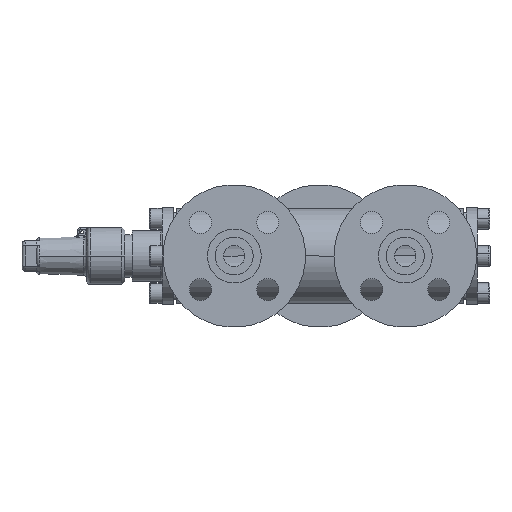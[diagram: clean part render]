
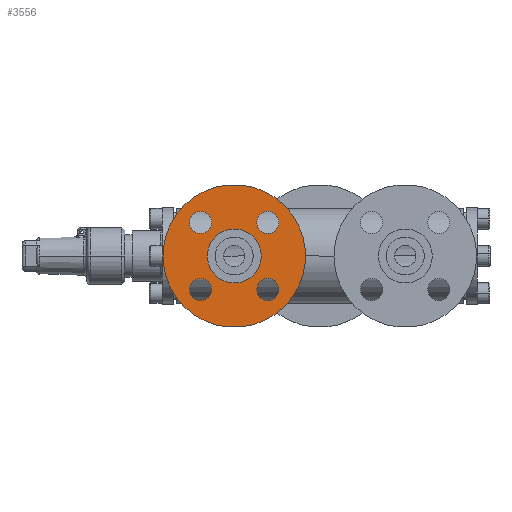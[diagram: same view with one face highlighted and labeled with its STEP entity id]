
A CAD part, left-side view. The second image highlights one B-rep face of the part: STEP entity #3556.
In plain terms, the highlighted planar face has unit normal (-1, 0, 0) as drawn and (0, -1, 0) by its records, which use the part's own axes.
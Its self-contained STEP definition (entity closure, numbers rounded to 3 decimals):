
#709 = EDGE_LOOP ( 'NONE', ( #26789, #25783 ) ) ;
#815 = VERTEX_POINT ( 'NONE', #22628 ) ;
#1172 = ORIENTED_EDGE ( 'NONE', *, *, #18094, .T. ) ;
#1247 = VERTEX_POINT ( 'NONE', #23297 ) ;
#17619 = VERTEX_POINT ( 'NONE', #7187 ) ;
#17856 = VERTEX_POINT ( 'NONE', #7372 ) ;
#1605 = EDGE_CURVE ( 'NONE', #1247, #815, #23592, .T. ) ;
#18094 = EDGE_CURVE ( 'NONE', #17856, #17619, #7718, .T. ) ;
#2172 = ORIENTED_EDGE ( 'NONE', *, *, #23149, .T. ) ;
#18571 = VERTEX_POINT ( 'NONE', #8595 ) ;
#18807 = VERTEX_POINT ( 'NONE', #8914 ) ;
#18827 = EDGE_CURVE ( 'NONE', #5926, #6355, #8956, .T. ) ;
#19044 = EDGE_CURVE ( 'NONE', #18807, #18571, #9210, .T. ) ;
#3170 = EDGE_LOOP ( 'NONE', ( #2172, #1172 ) ) ;
#19801 = CIRCLE ( 'NONE', #19802, 45. ) ;
#19802 = AXIS2_PLACEMENT_3D ( 'NONE', #19803, #19804, #19805 ) ;
#19803 = CARTESIAN_POINT ( 'NONE',  ( 0., 4., 0. ) ) ;
#19804 = DIRECTION ( 'NONE',  ( 0., -1., 0. ) ) ;
#19805 = DIRECTION ( 'NONE',  ( 1., 0., 0. ) ) ;
#3556 = ADVANCED_FACE ( 'NONE', ( #24839, #24840, #24841, #24842, #24843, #24844 ), #24866, .T. ) ;
#20241 = ORIENTED_EDGE ( 'NONE', *, *, #12685, .T. ) ;
#4059 = ORIENTED_EDGE ( 'NONE', *, *, #18827, .T. ) ;
#20649 = CARTESIAN_POINT ( 'NONE',  ( -45., 4., 0. ) ) ;
#20699 = CIRCLE ( 'NONE', #20700, 17. ) ;
#20700 = AXIS2_PLACEMENT_3D ( 'NONE', #20701, #20702, #20703 ) ;
#20701 = CARTESIAN_POINT ( 'NONE',  ( 0., 4., 0. ) ) ;
#20702 = DIRECTION ( 'NONE',  ( 0., -1., 0. ) ) ;
#20703 = DIRECTION ( 'NONE',  ( 1., 0., 0. ) ) ;
#20793 = ORIENTED_EDGE ( 'NONE', *, *, #22187, .T. ) ;
#20814 = CARTESIAN_POINT ( 'NONE',  ( 45., 4., 0. ) ) ;
#21086 = CIRCLE ( 'NONE', #21087, 7. ) ;
#21087 = AXIS2_PLACEMENT_3D ( 'NONE', #21088, #21089, #21090 ) ;
#21088 = CARTESIAN_POINT ( 'NONE',  ( 30., 4., 0. ) ) ;
#21089 = DIRECTION ( 'NONE',  ( 0., 1., 0. ) ) ;
#21090 = DIRECTION ( 'NONE',  ( 1., 0., 0. ) ) ;
#21276 = CIRCLE ( 'NONE', #21277, 45. ) ;
#21277 = AXIS2_PLACEMENT_3D ( 'NONE', #21278, #21279, #21280 ) ;
#21278 = CARTESIAN_POINT ( 'NONE',  ( 0., 4., 0. ) ) ;
#21279 = DIRECTION ( 'NONE',  ( 0., -1., 0. ) ) ;
#21280 = DIRECTION ( 'NONE',  ( 1., 0., 0. ) ) ;
#21351 = EDGE_LOOP ( 'NONE', ( #20793, #20241 ) ) ;
#5008 = EDGE_CURVE ( 'NONE', #7315, #7734, #25725, .T. ) ;
#5044 = EDGE_LOOP ( 'NONE', ( #4059, #21603 ) ) ;
#21603 = ORIENTED_EDGE ( 'NONE', *, *, #6775, .T. ) ;
#5503 = ORIENTED_EDGE ( 'NONE', *, *, #8154, .T. ) ;
#22187 = EDGE_CURVE ( 'NONE', #12214, #12446, #19801, .T. ) ;
#5926 = VERTEX_POINT ( 'NONE', #6782 ) ;
#22616 = EDGE_CURVE ( 'NONE', #815, #1247, #20699, .T. ) ;
#22628 = CARTESIAN_POINT ( 'NONE',  ( -17., 4., 0. ) ) ;
#6355 = VERTEX_POINT ( 'NONE', #8553 ) ;
#6496 = ORIENTED_EDGE ( 'NONE', *, *, #5008, .T. ) ;
#23149 = EDGE_CURVE ( 'NONE', #17619, #17856, #21086, .T. ) ;
#6775 = EDGE_CURVE ( 'NONE', #6355, #5926, #9083, .T. ) ;
#6782 = CARTESIAN_POINT ( 'NONE',  ( -7., 4., 30. ) ) ;
#23297 = CARTESIAN_POINT ( 'NONE',  ( 17., 4., 0. ) ) ;
#23324 = ORIENTED_EDGE ( 'NONE', *, *, #22616, .F. ) ;
#7187 = CARTESIAN_POINT ( 'NONE',  ( 23., 4., 0. ) ) ;
#23592 = CIRCLE ( 'NONE', #23593, 17. ) ;
#23593 = AXIS2_PLACEMENT_3D ( 'NONE', #23594, #23595, #23596 ) ;
#23594 = CARTESIAN_POINT ( 'NONE',  ( 0., 4., 0. ) ) ;
#23595 = DIRECTION ( 'NONE',  ( 0., -1., 0. ) ) ;
#23596 = DIRECTION ( 'NONE',  ( 1., 0., 0. ) ) ;
#7315 = VERTEX_POINT ( 'NONE', #9403 ) ;
#7372 = CARTESIAN_POINT ( 'NONE',  ( 37., 4., 0. ) ) ;
#7418 = EDGE_LOOP ( 'NONE', ( #6496, #5503 ) ) ;
#7718 = CIRCLE ( 'NONE', #7719, 7. ) ;
#7719 = AXIS2_PLACEMENT_3D ( 'NONE', #7720, #7721, #7722 ) ;
#7720 = CARTESIAN_POINT ( 'NONE',  ( 30., 4., 0. ) ) ;
#7721 = DIRECTION ( 'NONE',  ( 0., 1., 0. ) ) ;
#7722 = DIRECTION ( 'NONE',  ( 1., 0., 0. ) ) ;
#7734 = VERTEX_POINT ( 'NONE', #11027 ) ;
#24328 = ORIENTED_EDGE ( 'NONE', *, *, #1605, .F. ) ;
#8154 = EDGE_CURVE ( 'NONE', #7734, #7315, #11148, .T. ) ;
#24839 = FACE_BOUND ( 'NONE', #3170, .T. ) ;
#24840 = FACE_BOUND ( 'NONE', #709, .T. ) ;
#24841 = FACE_BOUND ( 'NONE', #25327, .T. ) ;
#24842 = FACE_BOUND ( 'NONE', #7418, .T. ) ;
#24843 = FACE_BOUND ( 'NONE', #5044, .T. ) ;
#24844 = FACE_OUTER_BOUND ( 'NONE', #21351, .T. ) ;
#24866 = PLANE ( 'NONE',  #24867 ) ;
#24867 = AXIS2_PLACEMENT_3D ( 'NONE', #24868, #24869, #24870 ) ;
#24868 = CARTESIAN_POINT ( 'NONE',  ( 0., 4., 0. ) ) ;
#24869 = DIRECTION ( 'NONE',  ( 0., -1., 0. ) ) ;
#24870 = DIRECTION ( 'NONE',  ( 1., 0., 0. ) ) ;
#8553 = CARTESIAN_POINT ( 'NONE',  ( 7., 4., 30. ) ) ;
#8595 = CARTESIAN_POINT ( 'NONE',  ( -37., 4., 0. ) ) ;
#8914 = CARTESIAN_POINT ( 'NONE',  ( -23., 4., 0. ) ) ;
#25327 = EDGE_LOOP ( 'NONE', ( #24328, #23324 ) ) ;
#8956 = CIRCLE ( 'NONE', #8957, 7. ) ;
#8957 = AXIS2_PLACEMENT_3D ( 'NONE', #8958, #8959, #8960 ) ;
#8958 = CARTESIAN_POINT ( 'NONE',  ( 0., 4., 30. ) ) ;
#8959 = DIRECTION ( 'NONE',  ( 0., 1., 0. ) ) ;
#8960 = DIRECTION ( 'NONE',  ( 1., 0., 0. ) ) ;
#9083 = CIRCLE ( 'NONE', #9084, 7. ) ;
#9084 = AXIS2_PLACEMENT_3D ( 'NONE', #9085, #9086, #9087 ) ;
#9085 = CARTESIAN_POINT ( 'NONE',  ( 0., 4., 30. ) ) ;
#9086 = DIRECTION ( 'NONE',  ( 0., 1., 0. ) ) ;
#9087 = DIRECTION ( 'NONE',  ( 1., 0., 0. ) ) ;
#9210 = CIRCLE ( 'NONE', #9211, 7. ) ;
#9211 = AXIS2_PLACEMENT_3D ( 'NONE', #9212, #9213, #9214 ) ;
#9212 = CARTESIAN_POINT ( 'NONE',  ( -30., 4., 0. ) ) ;
#9213 = DIRECTION ( 'NONE',  ( 0., 1., 0. ) ) ;
#9214 = DIRECTION ( 'NONE',  ( 1., 0., 0. ) ) ;
#25725 = CIRCLE ( 'NONE', #25726, 7. ) ;
#25726 = AXIS2_PLACEMENT_3D ( 'NONE', #25727, #25728, #25749 ) ;
#25727 = CARTESIAN_POINT ( 'NONE',  ( 0., 4., -30. ) ) ;
#25728 = DIRECTION ( 'NONE',  ( 0., 1., 0. ) ) ;
#25749 = DIRECTION ( 'NONE',  ( 1., 0., 0. ) ) ;
#9403 = CARTESIAN_POINT ( 'NONE',  ( -7., 4., -30. ) ) ;
#25783 = ORIENTED_EDGE ( 'NONE', *, *, #19044, .T. ) ;
#9539 = EDGE_CURVE ( 'NONE', #18571, #18807, #12228, .T. ) ;
#26789 = ORIENTED_EDGE ( 'NONE', *, *, #9539, .T. ) ;
#11027 = CARTESIAN_POINT ( 'NONE',  ( 7., 4., -30. ) ) ;
#11148 = CIRCLE ( 'NONE', #11149, 7. ) ;
#11149 = AXIS2_PLACEMENT_3D ( 'NONE', #11150, #11151, #11152 ) ;
#11150 = CARTESIAN_POINT ( 'NONE',  ( 0., 4., -30. ) ) ;
#11151 = DIRECTION ( 'NONE',  ( 0., 1., 0. ) ) ;
#11152 = DIRECTION ( 'NONE',  ( 1., 0., 0. ) ) ;
#12214 = VERTEX_POINT ( 'NONE', #20649 ) ;
#12228 = CIRCLE ( 'NONE', #12229, 7. ) ;
#12229 = AXIS2_PLACEMENT_3D ( 'NONE', #12230, #12231, #12232 ) ;
#12230 = CARTESIAN_POINT ( 'NONE',  ( -30., 4., 0. ) ) ;
#12231 = DIRECTION ( 'NONE',  ( 0., 1., 0. ) ) ;
#12232 = DIRECTION ( 'NONE',  ( 1., 0., 0. ) ) ;
#12446 = VERTEX_POINT ( 'NONE', #20814 ) ;
#12685 = EDGE_CURVE ( 'NONE', #12446, #12214, #21276, .T. ) ;
